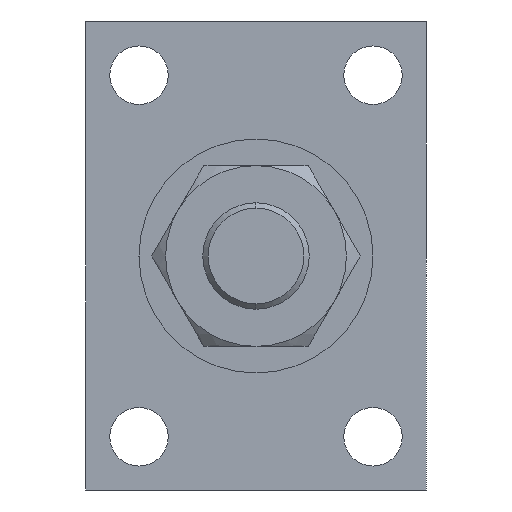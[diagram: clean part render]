
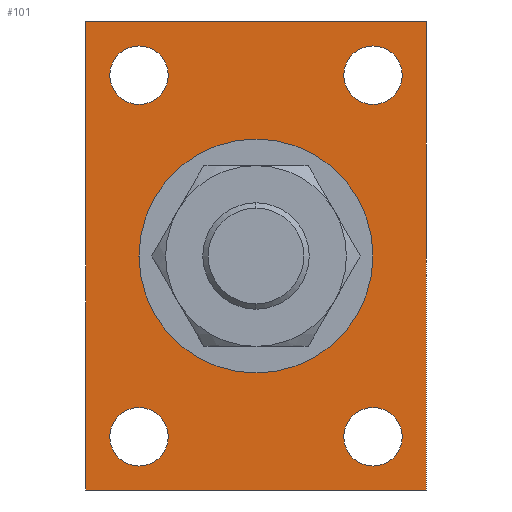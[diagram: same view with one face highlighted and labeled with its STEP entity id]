
A CAD part, left-side view. The second image highlights one B-rep face of the part: STEP entity #101.
In plain terms, the highlighted planar face has unit normal (-1, 0, 0).
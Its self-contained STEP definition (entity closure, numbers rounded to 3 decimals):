
#5 = DIRECTION ( 'NONE',  ( 0., 0., 1. ) ) ;
#17 = CARTESIAN_POINT ( 'NONE',  ( -29., 0., 0. ) ) ;
#20 = CARTESIAN_POINT ( 'NONE',  ( -29., -16., 22. ) ) ;
#101 = ADVANCED_FACE ( 'NONE', ( #1617, #2418, #1970, #1667, #2468, #2914 ), #141, .T. ) ;
#106 = VECTOR ( 'NONE', #112, 1000. ) ;
#112 = DIRECTION ( 'NONE',  ( 0., 0., -1. ) ) ;
#135 = ORIENTED_EDGE ( 'NONE', *, *, #2622, .F. ) ;
#141 = PLANE ( 'NONE',  #510 ) ;
#142 = DIRECTION ( 'NONE',  ( -1., 0., 0. ) ) ;
#221 = VERTEX_POINT ( 'NONE', #2446 ) ;
#235 = EDGE_CURVE ( 'NONE', #2003, #2117, #1506, .T. ) ;
#237 = VERTEX_POINT ( 'NONE', #1746 ) ;
#281 = CARTESIAN_POINT ( 'NONE',  ( -29., 0., -11. ) ) ;
#290 = DIRECTION ( 'NONE',  ( -1., 0., 0. ) ) ;
#293 = ORIENTED_EDGE ( 'NONE', *, *, #1904, .F. ) ;
#294 = CARTESIAN_POINT ( 'NONE',  ( -29., 16., -22. ) ) ;
#317 = DIRECTION ( 'NONE',  ( 0., 0., 1. ) ) ;
#318 = CIRCLE ( 'NONE', #2789, 2.75 ) ;
#336 = DIRECTION ( 'NONE',  ( -1., 0., 0. ) ) ;
#348 = ORIENTED_EDGE ( 'NONE', *, *, #1427, .F. ) ;
#373 = EDGE_LOOP ( 'NONE', ( #1655, #2048 ) ) ;
#393 = AXIS2_PLACEMENT_3D ( 'NONE', #907, #670, #317 ) ;
#397 = CIRCLE ( 'NONE', #393, 11. ) ;
#407 = VERTEX_POINT ( 'NONE', #1581 ) ;
#447 = DIRECTION ( 'NONE',  ( 0., 0., 1. ) ) ;
#510 = AXIS2_PLACEMENT_3D ( 'NONE', #884, #788, #1540 ) ;
#618 = DIRECTION ( 'NONE',  ( 0., 1., 0. ) ) ;
#621 = CIRCLE ( 'NONE', #2360, 2.75 ) ;
#652 = CARTESIAN_POINT ( 'NONE',  ( -29., 11., 14.25 ) ) ;
#669 = ORIENTED_EDGE ( 'NONE', *, *, #1480, .F. ) ;
#670 = DIRECTION ( 'NONE',  ( 1., 0., 0. ) ) ;
#738 = DIRECTION ( 'NONE',  ( 0., 0., 1. ) ) ;
#756 = EDGE_CURVE ( 'NONE', #1263, #237, #397, .T. ) ;
#788 = DIRECTION ( 'NONE',  ( -1., 0., 0. ) ) ;
#805 = EDGE_LOOP ( 'NONE', ( #1416, #2947, #2228, #2270 ) ) ;
#810 = VECTOR ( 'NONE', #2567, 1000. ) ;
#819 = EDGE_CURVE ( 'NONE', #237, #1263, #917, .T. ) ;
#838 = DIRECTION ( 'NONE',  ( 0., 0., 1. ) ) ;
#873 = DIRECTION ( 'NONE',  ( 0., 0., 1. ) ) ;
#884 = CARTESIAN_POINT ( 'NONE',  ( -29., 0., 0. ) ) ;
#907 = CARTESIAN_POINT ( 'NONE',  ( -29., 0., 0. ) ) ;
#917 = CIRCLE ( 'NONE', #2638, 11. ) ;
#945 = EDGE_CURVE ( 'NONE', #2748, #1357, #2073, .T. ) ;
#958 = VERTEX_POINT ( 'NONE', #2486 ) ;
#968 = VECTOR ( 'NONE', #618, 1000. ) ;
#991 = DIRECTION ( 'NONE',  ( -1., 0., 0. ) ) ;
#994 = VERTEX_POINT ( 'NONE', #2866 ) ;
#1009 = ORIENTED_EDGE ( 'NONE', *, *, #2548, .F. ) ;
#1030 = CARTESIAN_POINT ( 'NONE',  ( -29., 16., 22. ) ) ;
#1059 = CARTESIAN_POINT ( 'NONE',  ( -29., 11., 17. ) ) ;
#1104 = DIRECTION ( 'NONE',  ( -1., 0., 0. ) ) ;
#1144 = DIRECTION ( 'NONE',  ( -1., 0., 0. ) ) ;
#1145 = ORIENTED_EDGE ( 'NONE', *, *, #2143, .F. ) ;
#1165 = DIRECTION ( 'NONE',  ( 0., 0., 1. ) ) ;
#1218 = AXIS2_PLACEMENT_3D ( 'NONE', #1287, #1104, #2417 ) ;
#1221 = EDGE_CURVE ( 'NONE', #2102, #994, #1288, .T. ) ;
#1245 = CIRCLE ( 'NONE', #1424, 2.75 ) ;
#1263 = VERTEX_POINT ( 'NONE', #281 ) ;
#1287 = CARTESIAN_POINT ( 'NONE',  ( -29., 11., 17. ) ) ;
#1288 = LINE ( 'NONE', #2994, #810 ) ;
#1303 = CARTESIAN_POINT ( 'NONE',  ( -29., -11., -14.25 ) ) ;
#1331 = CIRCLE ( 'NONE', #1496, 2.75 ) ;
#1357 = VERTEX_POINT ( 'NONE', #1576 ) ;
#1366 = DIRECTION ( 'NONE',  ( 0., 0., 1. ) ) ;
#1416 = ORIENTED_EDGE ( 'NONE', *, *, #1221, .F. ) ;
#1424 = AXIS2_PLACEMENT_3D ( 'NONE', #1630, #290, #738 ) ;
#1425 = VERTEX_POINT ( 'NONE', #1303 ) ;
#1427 = EDGE_CURVE ( 'NONE', #958, #1425, #1245, .T. ) ;
#1480 = EDGE_CURVE ( 'NONE', #221, #407, #621, .T. ) ;
#1496 = AXIS2_PLACEMENT_3D ( 'NONE', #2389, #142, #5 ) ;
#1506 = LINE ( 'NONE', #1899, #968 ) ;
#1527 = DIRECTION ( 'NONE',  ( 0., 0., 1. ) ) ;
#1540 = DIRECTION ( 'NONE',  ( 0., 0., 1. ) ) ;
#1554 = DIRECTION ( 'NONE',  ( 1., 0., 0. ) ) ;
#1569 = EDGE_CURVE ( 'NONE', #2117, #2102, #2873, .T. ) ;
#1576 = CARTESIAN_POINT ( 'NONE',  ( -29., -11., 14.25 ) ) ;
#1581 = CARTESIAN_POINT ( 'NONE',  ( -29., 11., -19.75 ) ) ;
#1617 = FACE_BOUND ( 'NONE', #2252, .T. ) ;
#1630 = CARTESIAN_POINT ( 'NONE',  ( -29., -11., -17. ) ) ;
#1637 = CARTESIAN_POINT ( 'NONE',  ( -29., 16., 22. ) ) ;
#1649 = DIRECTION ( 'NONE',  ( 0., 0., 1. ) ) ;
#1655 = ORIENTED_EDGE ( 'NONE', *, *, #945, .F. ) ;
#1667 = FACE_BOUND ( 'NONE', #1907, .T. ) ;
#1746 = CARTESIAN_POINT ( 'NONE',  ( -29., 0., 11. ) ) ;
#1777 = AXIS2_PLACEMENT_3D ( 'NONE', #1059, #336, #873 ) ;
#1891 = CARTESIAN_POINT ( 'NONE',  ( -29., 11., -17. ) ) ;
#1899 = CARTESIAN_POINT ( 'NONE',  ( -29., -16., -22. ) ) ;
#1904 = EDGE_CURVE ( 'NONE', #2097, #2095, #2598, .T. ) ;
#1907 = EDGE_LOOP ( 'NONE', ( #1145, #348 ) ) ;
#1918 = CIRCLE ( 'NONE', #2691, 2.75 ) ;
#1970 = FACE_BOUND ( 'NONE', #373, .T. ) ;
#2003 = VERTEX_POINT ( 'NONE', #2020 ) ;
#2020 = CARTESIAN_POINT ( 'NONE',  ( -29., -16., -22. ) ) ;
#2028 = CARTESIAN_POINT ( 'NONE',  ( -29., -11., 17. ) ) ;
#2048 = ORIENTED_EDGE ( 'NONE', *, *, #2520, .F. ) ;
#2073 = CIRCLE ( 'NONE', #2110, 2.75 ) ;
#2095 = VERTEX_POINT ( 'NONE', #652 ) ;
#2097 = VERTEX_POINT ( 'NONE', #2715 ) ;
#2102 = VERTEX_POINT ( 'NONE', #1030 ) ;
#2110 = AXIS2_PLACEMENT_3D ( 'NONE', #2028, #991, #447 ) ;
#2117 = VERTEX_POINT ( 'NONE', #294 ) ;
#2128 = DIRECTION ( 'NONE',  ( -1., 0., 0. ) ) ;
#2143 = EDGE_CURVE ( 'NONE', #1425, #958, #1331, .T. ) ;
#2228 = ORIENTED_EDGE ( 'NONE', *, *, #235, .F. ) ;
#2252 = EDGE_LOOP ( 'NONE', ( #669, #135 ) ) ;
#2270 = ORIENTED_EDGE ( 'NONE', *, *, #2646, .F. ) ;
#2360 = AXIS2_PLACEMENT_3D ( 'NONE', #1891, #2128, #838 ) ;
#2366 = EDGE_LOOP ( 'NONE', ( #2867, #2745 ) ) ;
#2389 = CARTESIAN_POINT ( 'NONE',  ( -29., -11., -17. ) ) ;
#2417 = DIRECTION ( 'NONE',  ( 0., 0., 1. ) ) ;
#2418 = FACE_BOUND ( 'NONE', #2549, .T. ) ;
#2434 = CARTESIAN_POINT ( 'NONE',  ( -29., -11., 19.75 ) ) ;
#2446 = CARTESIAN_POINT ( 'NONE',  ( -29., 11., -14.25 ) ) ;
#2468 = FACE_OUTER_BOUND ( 'NONE', #805, .T. ) ;
#2486 = CARTESIAN_POINT ( 'NONE',  ( -29., -11., -19.75 ) ) ;
#2520 = EDGE_CURVE ( 'NONE', #1357, #2748, #1918, .T. ) ;
#2548 = EDGE_CURVE ( 'NONE', #2095, #2097, #2685, .T. ) ;
#2549 = EDGE_LOOP ( 'NONE', ( #293, #1009 ) ) ;
#2567 = DIRECTION ( 'NONE',  ( 0., -1., 0. ) ) ;
#2590 = CARTESIAN_POINT ( 'NONE',  ( -29., 11., -17. ) ) ;
#2598 = CIRCLE ( 'NONE', #1777, 2.75 ) ;
#2600 = VECTOR ( 'NONE', #1165, 1000. ) ;
#2622 = EDGE_CURVE ( 'NONE', #407, #221, #318, .T. ) ;
#2638 = AXIS2_PLACEMENT_3D ( 'NONE', #17, #1554, #1366 ) ;
#2646 = EDGE_CURVE ( 'NONE', #994, #2003, #2794, .T. ) ;
#2685 = CIRCLE ( 'NONE', #1218, 2.75 ) ;
#2691 = AXIS2_PLACEMENT_3D ( 'NONE', #2809, #1144, #1527 ) ;
#2715 = CARTESIAN_POINT ( 'NONE',  ( -29., 11., 19.75 ) ) ;
#2745 = ORIENTED_EDGE ( 'NONE', *, *, #756, .T. ) ;
#2748 = VERTEX_POINT ( 'NONE', #2434 ) ;
#2789 = AXIS2_PLACEMENT_3D ( 'NONE', #2590, #2971, #1649 ) ;
#2794 = LINE ( 'NONE', #20, #106 ) ;
#2809 = CARTESIAN_POINT ( 'NONE',  ( -29., -11., 17. ) ) ;
#2866 = CARTESIAN_POINT ( 'NONE',  ( -29., -16., 22. ) ) ;
#2867 = ORIENTED_EDGE ( 'NONE', *, *, #819, .T. ) ;
#2873 = LINE ( 'NONE', #1637, #2600 ) ;
#2914 = FACE_BOUND ( 'NONE', #2366, .T. ) ;
#2947 = ORIENTED_EDGE ( 'NONE', *, *, #1569, .F. ) ;
#2971 = DIRECTION ( 'NONE',  ( -1., 0., 0. ) ) ;
#2994 = CARTESIAN_POINT ( 'NONE',  ( -29., -16., 22. ) ) ;
